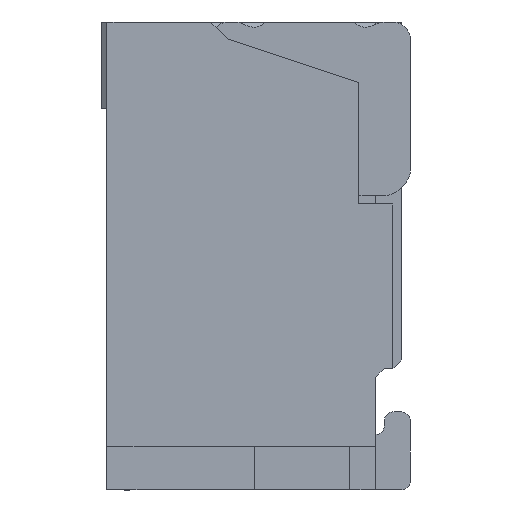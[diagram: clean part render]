
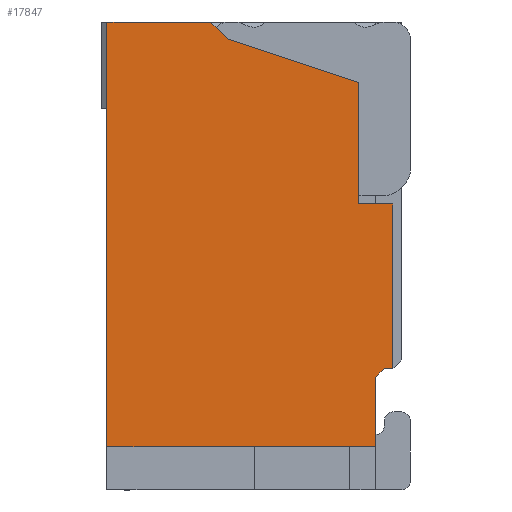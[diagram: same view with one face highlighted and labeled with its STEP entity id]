
A CAD part, left-side view. The second image highlights one B-rep face of the part: STEP entity #17847.
In plain terms, the highlighted planar face has unit normal (-1, 0, 0).
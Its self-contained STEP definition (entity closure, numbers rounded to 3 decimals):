
#441=DIRECTION('',(0.,0.,1.));
#442=VECTOR('',#441,2.45);
#443=CARTESIAN_POINT('',(-6.5,1.7,0.25));
#444=LINE('',#443,#442);
#5833=DIRECTION('',(0.,1.,0.));
#5834=VECTOR('',#5833,1.55);
#5835=CARTESIAN_POINT('',(-6.5,0.15,0.25));
#5836=LINE('',#5835,#5834);
#6481=DIRECTION('',(0.,1.,0.));
#6482=VECTOR('',#6481,0.6);
#6483=CARTESIAN_POINT('',(-6.5,1.1,2.7));
#6484=LINE('',#6483,#6482);
#6485=DIRECTION('',(0.,0.707,0.707));
#6486=VECTOR('',#6485,0.141);
#6487=CARTESIAN_POINT('',(-6.5,1.,2.6));
#6488=LINE('',#6487,#6486);
#6489=DIRECTION('',(0.,0.949,0.316));
#6490=VECTOR('',#6489,0.791);
#6491=CARTESIAN_POINT('',(-6.5,0.25,2.35));
#6492=LINE('',#6491,#6490);
#6493=DIRECTION('',(0.,0.,1.));
#6494=VECTOR('',#6493,0.7);
#6495=CARTESIAN_POINT('',(-6.5,0.25,1.65));
#6496=LINE('',#6495,#6494);
#6497=DIRECTION('',(0.,1.,0.));
#6498=VECTOR('',#6497,0.2);
#6499=CARTESIAN_POINT('',(-6.5,0.05,1.65));
#6500=LINE('',#6499,#6498);
#6501=DIRECTION('',(0.,0.,1.));
#6502=VECTOR('',#6501,0.95);
#6503=CARTESIAN_POINT('',(-6.5,0.05,0.7));
#6504=LINE('',#6503,#6502);
#6505=DIRECTION('',(0.,-1.,0.));
#6506=VECTOR('',#6505,0.05);
#6507=CARTESIAN_POINT('',(-6.5,0.1,0.7));
#6508=LINE('',#6507,#6506);
#6509=DIRECTION('',(0.,-0.707,0.707));
#6510=VECTOR('',#6509,0.071);
#6511=CARTESIAN_POINT('',(-6.5,0.15,0.65));
#6512=LINE('',#6511,#6510);
#6513=DIRECTION('',(0.,0.,1.));
#6514=VECTOR('',#6513,0.4);
#6515=CARTESIAN_POINT('',(-6.5,0.15,0.25));
#6516=LINE('',#6515,#6514);
#7673=CARTESIAN_POINT('',(-6.5,0.05,1.65));
#7674=VERTEX_POINT('',#7673);
#7675=CARTESIAN_POINT('',(-6.5,0.25,1.65));
#7676=VERTEX_POINT('',#7675);
#7701=CARTESIAN_POINT('',(-6.5,1.,2.6));
#7702=CARTESIAN_POINT('',(-6.5,1.1,2.7));
#7703=VERTEX_POINT('',#7701);
#7704=VERTEX_POINT('',#7702);
#7705=CARTESIAN_POINT('',(-6.5,0.25,2.35));
#7706=VERTEX_POINT('',#7705);
#7707=CARTESIAN_POINT('',(-6.5,0.05,0.7));
#7708=VERTEX_POINT('',#7707);
#7709=CARTESIAN_POINT('',(-6.5,0.1,0.7));
#7710=VERTEX_POINT('',#7709);
#7711=CARTESIAN_POINT('',(-6.5,0.15,0.65));
#7712=VERTEX_POINT('',#7711);
#7713=CARTESIAN_POINT('',(-6.5,0.15,0.25));
#7714=VERTEX_POINT('',#7713);
#7715=CARTESIAN_POINT('',(-6.5,1.7,0.25));
#7716=VERTEX_POINT('',#7715);
#7717=CARTESIAN_POINT('',(-6.5,1.7,2.7));
#7718=VERTEX_POINT('',#7717);
#17826=CARTESIAN_POINT('',(-6.5,0.049,2.701));
#17827=DIRECTION('',(-1.,0.,0.));
#17828=DIRECTION('',(0.,1.,0.));
#17829=AXIS2_PLACEMENT_3D('',#17826,#17827,#17828);
#17830=PLANE('',#17829);
#17831=ORIENTED_EDGE('',*,*,#10164,.F.);
#17833=ORIENTED_EDGE('',*,*,#17832,.F.);
#17835=ORIENTED_EDGE('',*,*,#17834,.F.);
#17836=ORIENTED_EDGE('',*,*,#9977,.F.);
#17837=ORIENTED_EDGE('',*,*,#10002,.F.);
#17839=ORIENTED_EDGE('',*,*,#17838,.F.);
#17840=ORIENTED_EDGE('',*,*,#17802,.F.);
#17841=ORIENTED_EDGE('',*,*,#17819,.F.);
#17842=ORIENTED_EDGE('',*,*,#10421,.F.);
#17843=ORIENTED_EDGE('',*,*,#16874,.T.);
#17844=ORIENTED_EDGE('',*,*,#10246,.T.);
#17845=EDGE_LOOP('',(#17831,#17833,#17835,#17836,#17837,#17839,#17840,#17841,
#17842,#17843,#17844));
#17846=FACE_OUTER_BOUND('',#17845,.F.);
#17847=ADVANCED_FACE('',(#17846),#17830,.T.);
#9977=EDGE_CURVE('',#7676,#7706,#6496,.T.);
#10002=EDGE_CURVE('',#7674,#7676,#6500,.T.);
#10164=EDGE_CURVE('',#7704,#7718,#6484,.T.);
#10246=EDGE_CURVE('',#7716,#7718,#444,.T.);
#10421=EDGE_CURVE('',#7714,#7712,#6516,.T.);
#16874=EDGE_CURVE('',#7714,#7716,#5836,.T.);
#17802=EDGE_CURVE('',#7710,#7708,#6508,.T.);
#17819=EDGE_CURVE('',#7712,#7710,#6512,.T.);
#17832=EDGE_CURVE('',#7703,#7704,#6488,.T.);
#17834=EDGE_CURVE('',#7706,#7703,#6492,.T.);
#17838=EDGE_CURVE('',#7708,#7674,#6504,.T.);
